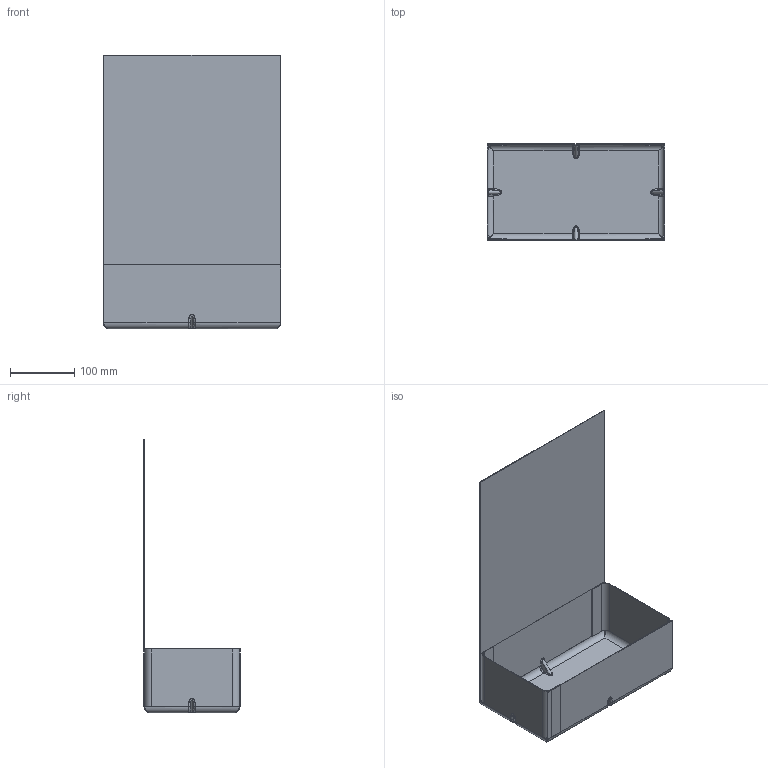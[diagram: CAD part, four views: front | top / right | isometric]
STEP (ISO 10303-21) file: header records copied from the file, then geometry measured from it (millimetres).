
FILE_DESCRIPTION(('CATIA V5 STEP Exchange'),'2;1');
FILE_NAME('C:\Users\andres.garcia\OneDrive - IQS\ASIGNATURAS\DAO\EXF\EXF-22223c\2inicio\Ej04-GARCIA_Andres.stp','2023-02-26T12:07:56+00:00',('none'),('none'),'CATIA Version 5-6 Release 2013 SP6','CATIA V5 STEP AP203','none');
FILE_SCHEMA(('CONFIG_CONTROL_DESIGN'));
Length unit declared in the file: millimetre
Products named in the file (1): Ej04-GARCIA_Andres
Bounding box: 278 x 150 x 428 mm (x, y, z)
Volume: 222401.8 mm3; surface area: 448002 mm2
Topology: 2 solids, 2 shells, 176 faces, 388 edges, 216 vertices
Faces by surface type: plane 72, cylinder 64, bspline 40
Entity records: 9444 total; most frequent: CARTESIAN_POINT 6066, ORIENTED_EDGE 776, DIRECTION 496, EDGE_CURVE 388, VERTEX_POINT 216, VECTOR 198, LINE 198, ADVANCED_FACE 176
